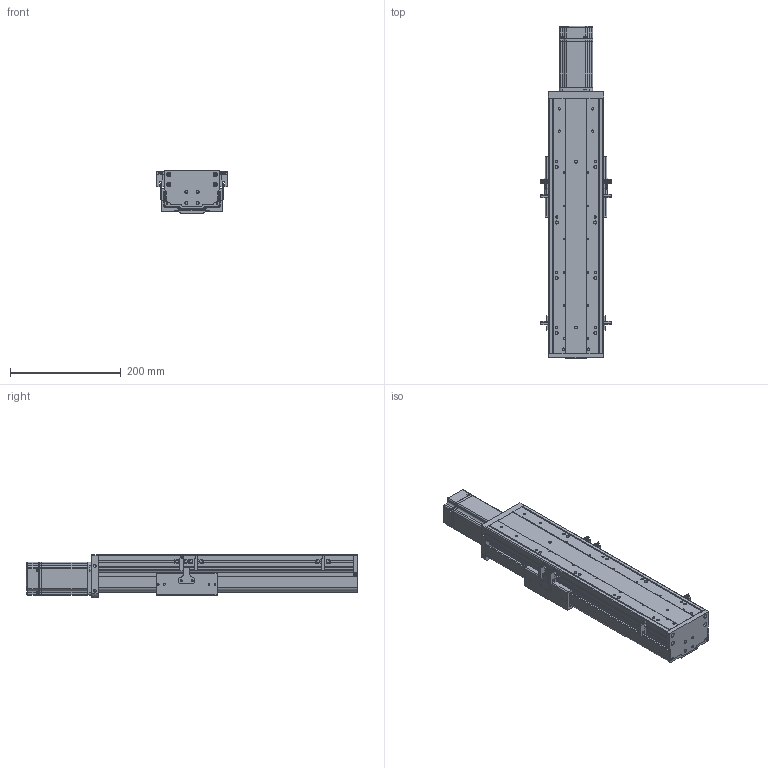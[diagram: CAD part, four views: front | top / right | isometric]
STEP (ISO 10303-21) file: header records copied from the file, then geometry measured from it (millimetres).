
FILE_DESCRIPTION (( 'STEP AP203' ), '1' );
FILE_NAME ('RY100FBS-L1610-300-MK(15双轨）.SLDASM_200.step', '2021-02-22T08:44:05', ( '盈信电脑' ), ( '东莞市道滘镇水果街19号' ), 'SwSTEP 2.0', 'SolidWorks 2012', '' );
FILE_SCHEMA (( 'CONFIG_CONTROL_DESIGN' ));
Length unit declared in the file: millimetre
Products named in the file (12): RY100FBS-L1610-300-MK(15双轨）.SLDASM_200; 覜茼ん672; 15; 侂狟400W侜督萇儂; RY100FBS-后盖板(15双轨）; RY100FB-遵嫖萇覜茼え; RY100FBS-300-上盖板(15双轨）_200; RY100FBS-铝滑块（16丝杆）; 滅袉蝶18-15; RY100FBS-前盖板(15双轨）; RY100FBS-300型材底座(15双轨）_200; 滅袉蝶18-24
Assembly tree (18 placements, depth 3):
  RY100FBS-L1610-300-MK(15双轨）.SLDASM_200
    RY100FBS-300型材底座(15双轨）_200
    滅袉蝶18-24  x2
    滅袉蝶18-15
    RY100FBS-铝滑块（16丝杆）
    RY100FBS-300-上盖板(15双轨）_200
    RY100FBS-前盖板(15双轨）
    RY100FBS-后盖板(15双轨）
    侂狟400W侜督萇儂
      15
    RY100FB-遵嫖萇覜茼え  x2
    覜茼ん672  x6
Bounding box: 127.4 x 600.5 x 78.75 mm (x, y, z)
Volume: 1651764.1 mm3; surface area: 531101 mm2
Topology: 17 solids, 17 shells, 1697 faces, 4777 edges, 3128 vertices
Faces by surface type: plane 857, cylinder 708, cone 114, bspline 18
Entity records: 43710 total; most frequent: CARTESIAN_POINT 9147, DIRECTION 7024, ORIENTED_EDGE 6898, EDGE_CURVE 3449, AXIS2_PLACEMENT_3D 2515, VERTEX_POINT 2276, LINE 1994, VECTOR 1994
